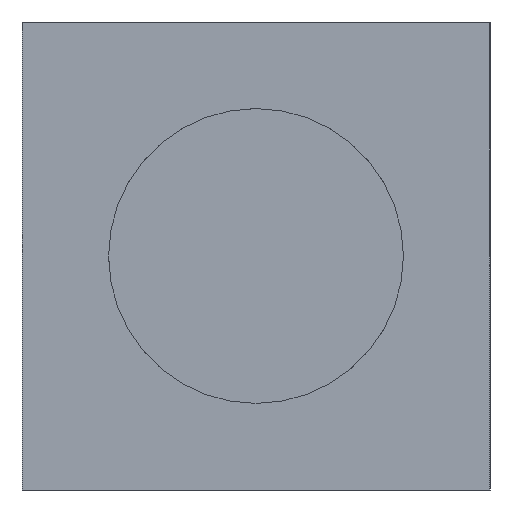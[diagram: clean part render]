
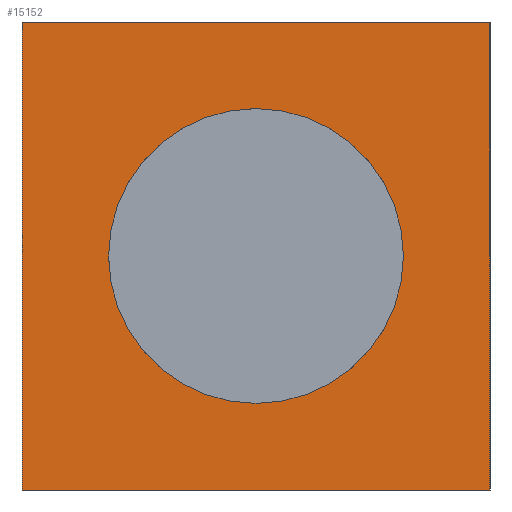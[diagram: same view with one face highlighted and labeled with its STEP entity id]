
A CAD part, left-side view. The second image highlights one B-rep face of the part: STEP entity #15152.
In plain terms, the highlighted planar face has unit normal (-1, 0, 0).
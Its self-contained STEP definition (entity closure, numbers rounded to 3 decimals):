
#1610=FACE_BOUND('',#3574,.T.);
#1770=PLANE('',#15529);
#2686=FACE_OUTER_BOUND('',#3573,.T.);
#3573=EDGE_LOOP('',(#14214,#14215,#14216,#14217));
#3574=EDGE_LOOP('',(#14218));
#3690=CIRCLE('',#15503,8.001);
#4830=LINE('',#30825,#5776);
#4848=LINE('',#31023,#5794);
#4868=LINE('',#31085,#5814);
#4871=LINE('',#31090,#5817);
#5776=VECTOR('',#16997,10.);
#5794=VECTOR('',#17113,10.);
#5814=VECTOR('',#17183,10.);
#5817=VECTOR('',#17188,10.);
#7309=VERTEX_POINT('',#30822);
#7310=VERTEX_POINT('',#30824);
#7339=VERTEX_POINT('',#31021);
#7340=VERTEX_POINT('',#31026);
#7356=VERTEX_POINT('',#31084);
#9579=EDGE_CURVE('',#7310,#7309,#4830,.T.);
#9623=EDGE_CURVE('',#7309,#7339,#4848,.T.);
#9625=EDGE_CURVE('',#7340,#7340,#3690,.T.);
#9655=EDGE_CURVE('',#7339,#7356,#4868,.T.);
#9658=EDGE_CURVE('',#7356,#7310,#4871,.T.);
#14214=ORIENTED_EDGE('',*,*,#9623,.T.);
#14215=ORIENTED_EDGE('',*,*,#9655,.T.);
#14216=ORIENTED_EDGE('',*,*,#9658,.T.);
#14217=ORIENTED_EDGE('',*,*,#9579,.T.);
#14218=ORIENTED_EDGE('',*,*,#9625,.T.);
#15152=ADVANCED_FACE('',(#2686,#1610),#1770,.F.);
#15503=AXIS2_PLACEMENT_3D('',#31027,#17117,#17118);
#15529=AXIS2_PLACEMENT_3D('',#31093,#17192,#17193);
#16997=DIRECTION('',(0.,-1.,0.));
#17113=DIRECTION('',(0.,0.,1.));
#17117=DIRECTION('center_axis',(1.,0.,0.));
#17118=DIRECTION('ref_axis',(0.,0.,-1.));
#17183=DIRECTION('',(0.,1.,0.));
#17188=DIRECTION('',(0.,0.,-1.));
#17192=DIRECTION('center_axis',(1.,0.,0.));
#17193=DIRECTION('ref_axis',(0.,0.,-1.));
#30822=CARTESIAN_POINT('',(0.,-12.7,-12.7));
#30824=CARTESIAN_POINT('',(0.,12.7,-12.7));
#30825=CARTESIAN_POINT('',(0.,12.7,-12.7));
#31021=CARTESIAN_POINT('',(0.,-12.7,12.7));
#31023=CARTESIAN_POINT('',(0.,-12.7,-12.7));
#31026=CARTESIAN_POINT('',(0.,0.,8.001));
#31027=CARTESIAN_POINT('Origin',(0.,0.,0.));
#31084=CARTESIAN_POINT('',(0.,12.7,12.7));
#31085=CARTESIAN_POINT('',(0.,-12.7,12.7));
#31090=CARTESIAN_POINT('',(0.,12.7,12.7));
#31093=CARTESIAN_POINT('Origin',(0.,0.,0.));
